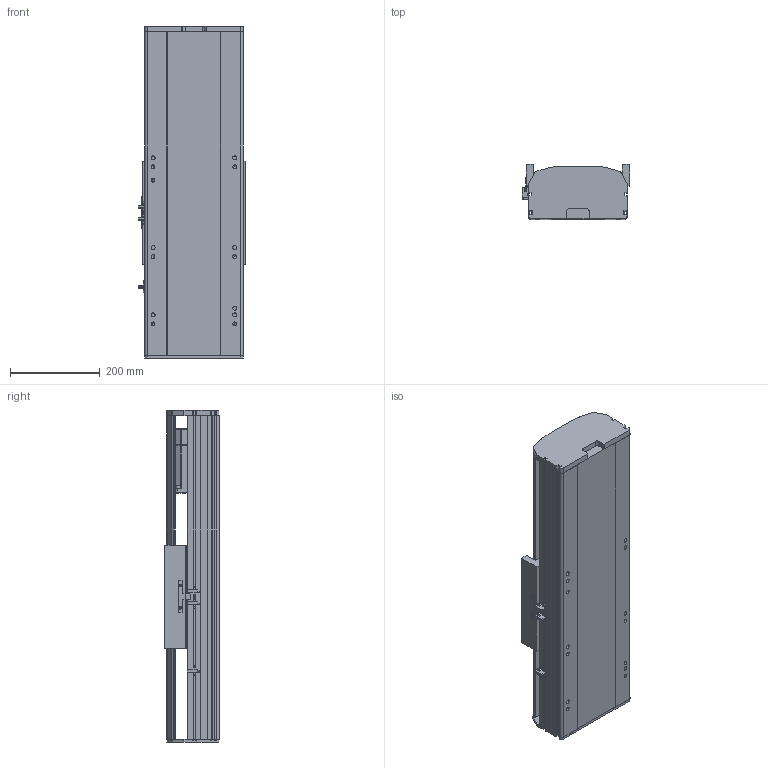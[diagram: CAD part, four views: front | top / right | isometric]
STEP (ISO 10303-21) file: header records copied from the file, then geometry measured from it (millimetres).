
FILE_DESCRIPTION (( 'STEP AP214' ), '1' );
FILE_NAME ('RTH22-XX-150-B-M75-C4.STEP', '2025-10-24T10:25:57', ( 'Microsoft' ), ( 'Microsoft' ), 'SwSTEP 2.0', 'SolidWorks 2018', '' );
FILE_SCHEMA (( 'AUTOMOTIVE_DESIGN' ));
Length unit declared in the file: millimetre
Products named in the file (9): N_RTH22-B-011菁釱^RTH22-XX-XX-B-M75-C4; N_750W萇儂^RTH22-XX-XX-B-M75-C4; N_RTH22-E-004-SFS25賑釱^RTH22-XX-XX-B-M75-C4; N_RTH22-B-007奻裔^RTH22-XX-XX-B-M75-C4; N_RTH22-GY-013外置感应片^RTH22-XX-XX-B-M75-C4; N_RTH22-GY-001耜裔^RTH22-XX-XX-B-M75-C4; RTH22-XX-150-B-M75-C4; N_OMRON EE-SX672 传感器^RTH22-XX-XX-B-M75-C4; N_RTH22-B-008萇儂啣^RTH22-XX-XX-B-M75-C4
Assembly tree (10 placements, depth 2):
  RTH22-XX-150-B-M75-C4
    N_RTH22-B-011菁釱^RTH22-XX-XX-B-M75-C4
    N_RTH22-GY-001耜裔^RTH22-XX-XX-B-M75-C4
    N_750W萇儂^RTH22-XX-XX-B-M75-C4
    N_RTH22-B-008萇儂啣^RTH22-XX-XX-B-M75-C4
    N_RTH22-B-007奻裔^RTH22-XX-XX-B-M75-C4
    N_OMRON EE-SX672 传感器^RTH22-XX-XX-B-M75-C4  x3
    N_RTH22-GY-013外置感应片^RTH22-XX-XX-B-M75-C4
    N_RTH22-E-004-SFS25賑釱^RTH22-XX-XX-B-M75-C4
Bounding box: 238.5 x 122 x 740 mm (x, y, z)
Volume: 11555975.9 mm3; surface area: 1229668.4 mm2
Topology: 10 solids, 10 shells, 1461 faces, 4000 edges, 2593 vertices
Faces by surface type: plane 746, cylinder 394, bspline 279, cone 42
Entity records: 35459 total; most frequent: CARTESIAN_POINT 11253, ORIENTED_EDGE 5008, DIRECTION 4622, EDGE_CURVE 2504, VERTEX_POINT 1629, LINE 1578, VECTOR 1578, AXIS2_PLACEMENT_3D 1522
